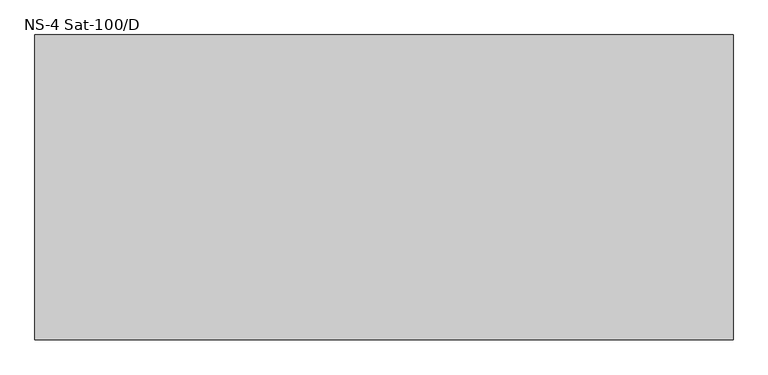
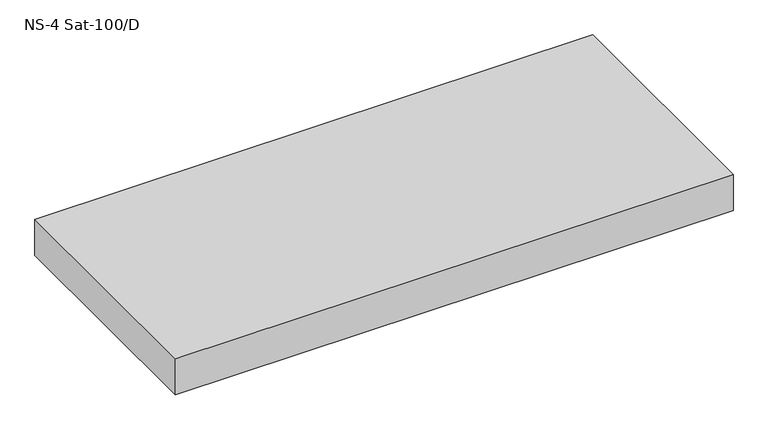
"""IFC4 building model written with IfcOpenShell, lengths in millimetres: unitary equipment geometry, ME_PE_UN_Lipulift-PFB_ACO : NS-4 Sat-100/D."""

from ifc_helpers import new_model, si_unit, frame, origin, place, context, project, spatial, polyline, outline, extrude, source, transform, mapped, element, save


def ns_4_sat_100_d_fc64e7ec(model_context):
    return source(origin(), model_context, "Body", "SweptSolid", [
        extrude(outline(polyline([(1830.0, 798.9670575), (1830.0, -798.9670575), (-1830.0, -798.9670575), (-1830.0, 798.9670575), (1830.0, 798.9670575)])), frame((0.0, 0.0, -330.0), z_axis=(0.0, 0.0, 1.0), x_axis=(1.0, 0.0, 0.0)), (0.0, 0.0, 1.0), 250.0),
    ])


if __name__ == "__main__":
    model = new_model("IFC4")
    model_context = context("Model", 3, world=origin())
    ifc_project = project(units=[si_unit("LENGTHUNIT", "METRE", prefix="MILLI")], contexts=[model_context])
    site = spatial("IfcSite", under=ifc_project)
    building = spatial("IfcBuilding", under=site)
    placement = place(None, origin())
    ns_4_sat_100_d_shape = ns_4_sat_100_d_fc64e7ec(model_context)
    element("IfcUnitaryEquipment", 1, ObjectType="ME_PE_UN_Lipulift-PFB_ACO : NS-4 Sat-100/D", at=placement, inside=building, context=model_context, shape_type="MappedRepresentation", body=[
        mapped(ns_4_sat_100_d_shape, transform((0.0, 0.0, 0.0), x_axis=(1.0, 0.0, 0.0), y_axis=(0.0, 1.0, 0.0), z_axis=(0.0, 0.0, 1.0))),
    ])
    save(model, "model.ifc")
